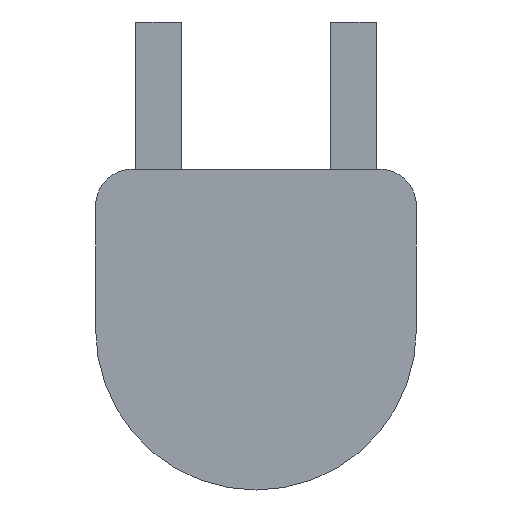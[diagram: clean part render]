
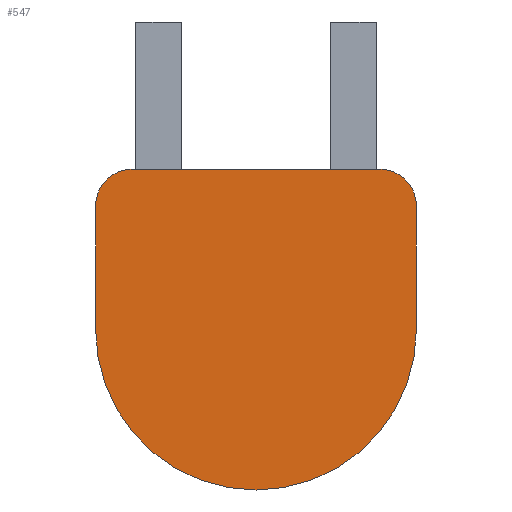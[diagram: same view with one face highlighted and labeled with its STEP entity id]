
A CAD part, front view. The second image highlights one B-rep face of the part: STEP entity #547.
In plain terms, the highlighted planar face has unit normal (0, -1, 0).
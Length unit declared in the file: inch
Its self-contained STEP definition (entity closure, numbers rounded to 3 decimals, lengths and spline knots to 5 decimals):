
#3 = CARTESIAN_POINT ( 'NONE',  ( 0.55, 0., 0.425 ) ) ;
#13 = DIRECTION ( 'NONE',  ( 0., 1., 0. ) ) ;
#14 = CIRCLE ( 'NONE', #503, 0.55 ) ;
#35 = EDGE_CURVE ( 'NONE', #77, #537, #14, .T. ) ;
#38 = ORIENTED_EDGE ( 'NONE', *, *, #162, .F. ) ;
#44 = VECTOR ( 'NONE', #448, 39.37008 ) ;
#57 = AXIS2_PLACEMENT_3D ( 'NONE', #565, #421, #519 ) ;
#59 = DIRECTION ( 'NONE',  ( 0., 1., 0. ) ) ;
#64 = VERTEX_POINT ( 'NONE', #517 ) ;
#77 = VERTEX_POINT ( 'NONE', #154 ) ;
#82 = EDGE_CURVE ( 'NONE', #64, #238, #89, .T. ) ;
#89 = LINE ( 'NONE', #269, #472 ) ;
#97 = CIRCLE ( 'NONE', #283, 0.55 ) ;
#124 = VERTEX_POINT ( 'NONE', #352 ) ;
#125 = EDGE_CURVE ( 'NONE', #124, #471, #541, .T. ) ;
#137 = FACE_OUTER_BOUND ( 'NONE', #479, .T. ) ;
#154 = CARTESIAN_POINT ( 'NONE',  ( 0.55, 0., 0. ) ) ;
#162 = EDGE_CURVE ( 'NONE', #336, #77, #165, .T. ) ;
#165 = LINE ( 'NONE', #243, #211 ) ;
#180 = DIRECTION ( 'NONE',  ( 0., 1., 0. ) ) ;
#185 = CARTESIAN_POINT ( 'NONE',  ( 0.425, 0., 0.425 ) ) ;
#203 = ORIENTED_EDGE ( 'NONE', *, *, #125, .F. ) ;
#207 = AXIS2_PLACEMENT_3D ( 'NONE', #410, #13, #223 ) ;
#209 = CARTESIAN_POINT ( 'NONE',  ( -0.55, 0., 0.425 ) ) ;
#211 = VECTOR ( 'NONE', #567, 39.37008 ) ;
#223 = DIRECTION ( 'NONE',  ( 0., 0., 1. ) ) ;
#229 = PLANE ( 'NONE',  #207 ) ;
#238 = VERTEX_POINT ( 'NONE', #209 ) ;
#243 = CARTESIAN_POINT ( 'NONE',  ( 0.55, 0., 0. ) ) ;
#257 = DIRECTION ( 'NONE',  ( 0., 0., 1. ) ) ;
#269 = CARTESIAN_POINT ( 'NONE',  ( -0.55, 0., 0. ) ) ;
#283 = AXIS2_PLACEMENT_3D ( 'NONE', #464, #59, #371 ) ;
#286 = EDGE_CURVE ( 'NONE', #238, #124, #334, .T. ) ;
#307 = CARTESIAN_POINT ( 'NONE',  ( 0., 0., 0.55 ) ) ;
#334 = CIRCLE ( 'NONE', #57, 0.125 ) ;
#336 = VERTEX_POINT ( 'NONE', #3 ) ;
#352 = CARTESIAN_POINT ( 'NONE',  ( -0.425, 0., 0.55 ) ) ;
#359 = CARTESIAN_POINT ( 'NONE',  ( 0., 0., -0.55 ) ) ;
#371 = DIRECTION ( 'NONE',  ( 0., 0., 1. ) ) ;
#373 = ORIENTED_EDGE ( 'NONE', *, *, #583, .F. ) ;
#378 = DIRECTION ( 'NONE',  ( 0., 1., 0. ) ) ;
#385 = ORIENTED_EDGE ( 'NONE', *, *, #82, .F. ) ;
#410 = CARTESIAN_POINT ( 'NONE',  ( 0., 0., 0. ) ) ;
#415 = DIRECTION ( 'NONE',  ( 0., 0., 1. ) ) ;
#421 = DIRECTION ( 'NONE',  ( 0., 1., 0. ) ) ;
#423 = CARTESIAN_POINT ( 'NONE',  ( 0., 0., 0. ) ) ;
#438 = EDGE_CURVE ( 'NONE', #537, #64, #97, .T. ) ;
#448 = DIRECTION ( 'NONE',  ( 1., 0., 0. ) ) ;
#463 = ORIENTED_EDGE ( 'NONE', *, *, #35, .F. ) ;
#464 = CARTESIAN_POINT ( 'NONE',  ( 0., 0., 0. ) ) ;
#471 = VERTEX_POINT ( 'NONE', #512 ) ;
#472 = VECTOR ( 'NONE', #257, 39.37008 ) ;
#474 = DIRECTION ( 'NONE',  ( 0., 0., 1. ) ) ;
#479 = EDGE_LOOP ( 'NONE', ( #385, #507, #463, #38, #373, #203, #499 ) ) ;
#499 = ORIENTED_EDGE ( 'NONE', *, *, #286, .F. ) ;
#503 = AXIS2_PLACEMENT_3D ( 'NONE', #423, #378, #474 ) ;
#507 = ORIENTED_EDGE ( 'NONE', *, *, #438, .F. ) ;
#512 = CARTESIAN_POINT ( 'NONE',  ( 0.425, 0., 0.55 ) ) ;
#517 = CARTESIAN_POINT ( 'NONE',  ( -0.55, 0., 0. ) ) ;
#519 = DIRECTION ( 'NONE',  ( 0., 0., 1. ) ) ;
#537 = VERTEX_POINT ( 'NONE', #359 ) ;
#541 = LINE ( 'NONE', #307, #44 ) ;
#547 = ADVANCED_FACE ( 'NONE', ( #137 ), #229, .F. ) ;
#552 = AXIS2_PLACEMENT_3D ( 'NONE', #185, #180, #415 ) ;
#565 = CARTESIAN_POINT ( 'NONE',  ( -0.425, 0., 0.425 ) ) ;
#567 = DIRECTION ( 'NONE',  ( 0., 0., -1. ) ) ;
#583 = EDGE_CURVE ( 'NONE', #471, #336, #584, .T. ) ;
#584 = CIRCLE ( 'NONE', #552, 0.125 ) ;
